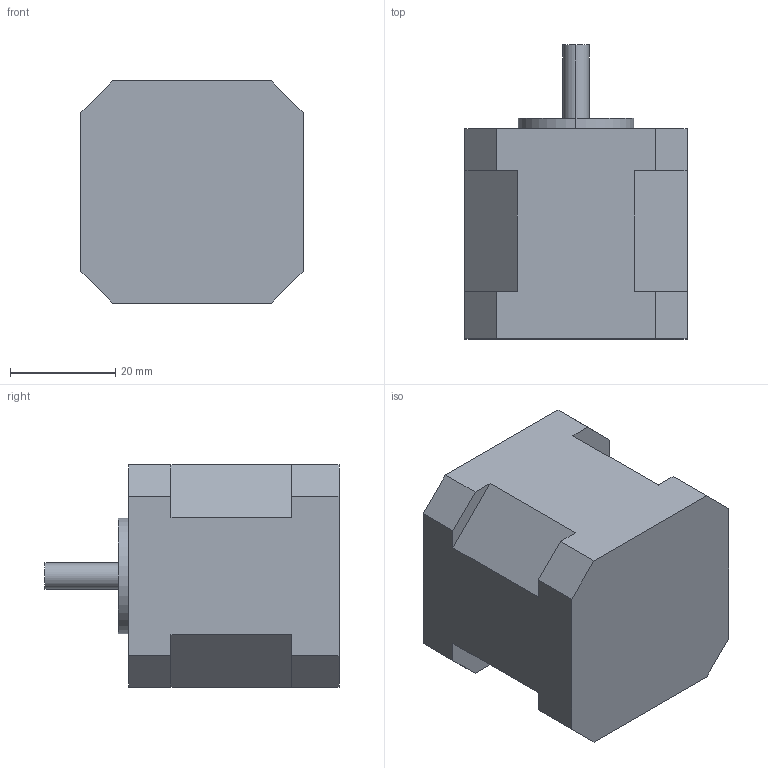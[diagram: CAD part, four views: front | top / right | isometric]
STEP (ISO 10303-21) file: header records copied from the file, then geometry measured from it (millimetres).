
FILE_DESCRIPTION (( 'STEP AP203' ), '1' );
FILE_NAME ('2S42Q-0240.STEP', '2015-05-04T08:46:21', ( 'IT毞諾' ), ( 'iTianKong.com' ), 'SwSTEP 2.0', 'SolidWorks 2008', '' );
FILE_SCHEMA (( 'CONFIG_CONTROL_DESIGN' ));
Length unit declared in the file: millimetre
Products named in the file (1): 2S42Q-0240
Bounding box: 42.3 x 56 x 42.3 mm (x, y, z)
Volume: 66689.5 mm3; surface area: 10183.4 mm2
Topology: 1 solids, 1 shells, 48 faces, 124 edges, 76 vertices
Faces by surface type: plane 28, cylinder 12, cone 8
Entity records: 1469 total; most frequent: CARTESIAN_POINT 241, DIRECTION 238, ORIENTED_EDGE 232, EDGE_CURVE 116, VECTOR 92, LINE 92, VERTEX_POINT 76, AXIS2_PLACEMENT_3D 73
